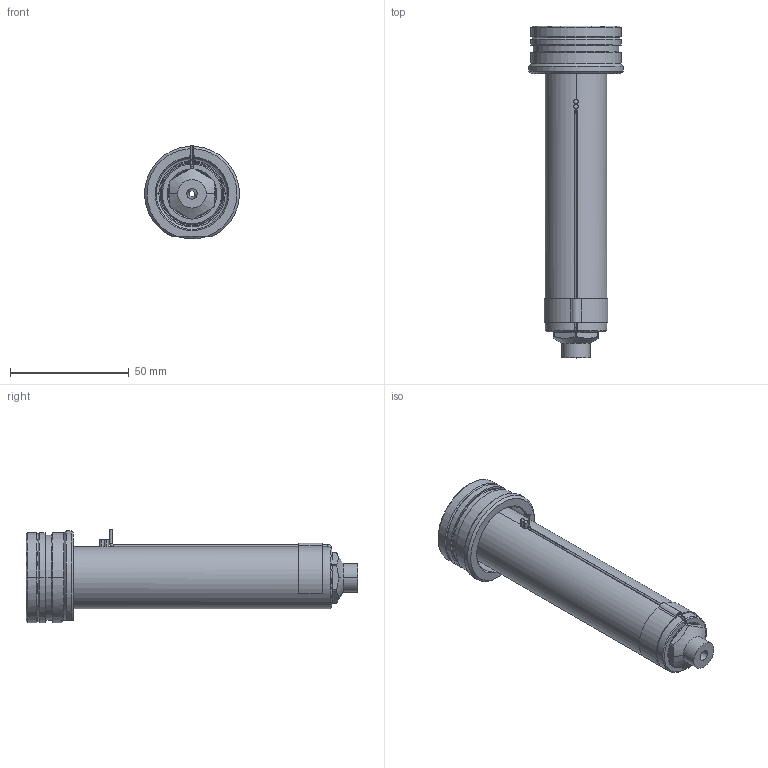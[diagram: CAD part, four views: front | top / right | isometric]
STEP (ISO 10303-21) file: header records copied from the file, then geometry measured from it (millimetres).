
FILE_DESCRIPTION((''),'2;1');
FILE_NAME('EO08_SG_SG_120_SW','2024-02-19T12:20:41',('sundharh'),(''),'CREO PARAMETRIC BY PTC INC, 2023154','CREO PARAMETRIC BY PTC INC, 2023154','');
FILE_SCHEMA(('CONFIG_CONTROL_DESIGN'));
Length unit declared in the file: millimetre
Products named in the file (1): EO08_SG_SG_120_SW
Bounding box: 39.88 x 140 x 39.52 mm (x, y, z)
Volume: 73621.8 mm3; surface area: 20907.3 mm2
Topology: 1 solids, 1 shells, 167 faces, 419 edges, 256 vertices
Faces by surface type: cylinder 64, plane 44, cone 33, torus 19, bspline 4, sphere 3
Entity records: 6177 total; most frequent: CARTESIAN_POINT 2104, DIRECTION 895, ORIENTED_EDGE 826, EDGE_CURVE 413, AXIS2_PLACEMENT_3D 370, VERTEX_POINT 256, CIRCLE 207, EDGE_LOOP 183
